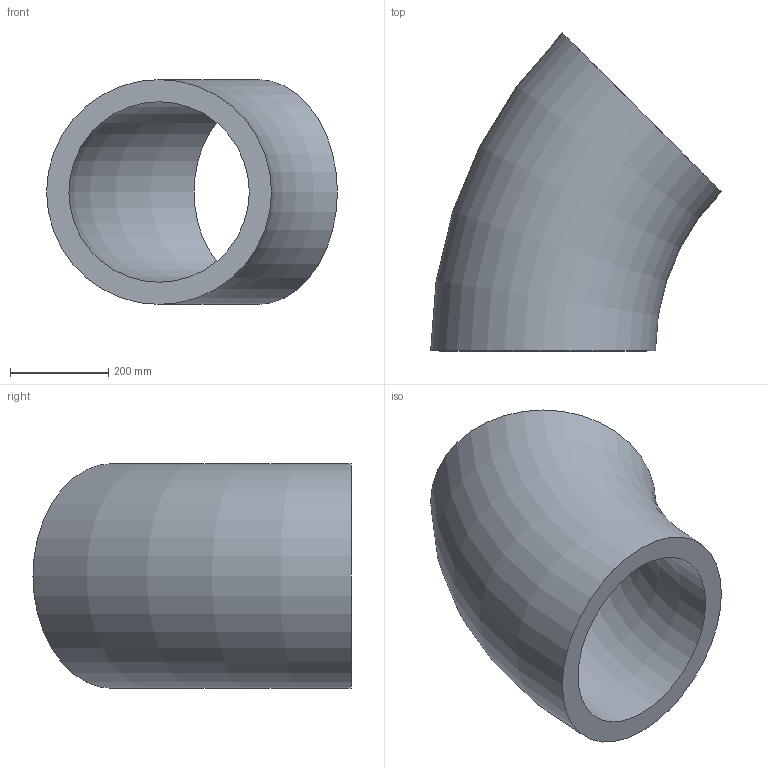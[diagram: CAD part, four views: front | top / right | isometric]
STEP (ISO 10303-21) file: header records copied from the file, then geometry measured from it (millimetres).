
FILE_DESCRIPTION(/* description */ (''),/* implementation_level */ '2;1');
FILE_NAME(/* name */ 'C:\Users\D\Documents\Inventor\HP\JIS\配管\エルボ ロング 45°\Sch160\Elbow45-long-450A-Sch160.stp',/* time_stamp */ '2022-06-08T17:06:00+09:00',/* author */ ('D'),/* organization */ (''),/* preprocessor_version */ 'ST-DEVELOPER v18',/* originating_system */ 'Autodesk Inventor 2020',/* authorisation */ '');
FILE_SCHEMA (('AUTOMOTIVE_DESIGN { 1 0 10303 214 3 1 1 }'));
Length unit declared in the file: millimetre
Products named in the file (1): Elbow-long-90-15A-SGP
Bounding box: 591.11 x 646.58 x 457.2 mm (x, y, z)
Volume: 31511776.4 mm3; surface area: 1511334.4 mm2
Topology: 1 solids, 1 shells, 4 faces, 10 edges, 8 vertices
Faces by surface type: torus 2, plane 2
Entity records: 181 total; most frequent: DIRECTION 30, CARTESIAN_POINT 23, ORIENTED_EDGE 20, AXIS2_PLACEMENT_3D 15, CIRCLE 10, EDGE_CURVE 10, VERTEX_POINT 8, EDGE_LOOP 6
